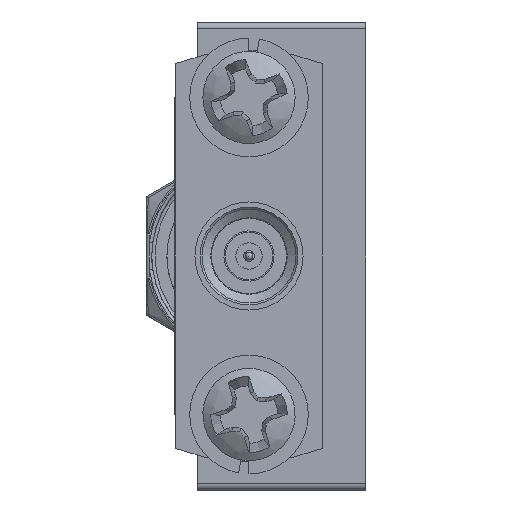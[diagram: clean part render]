
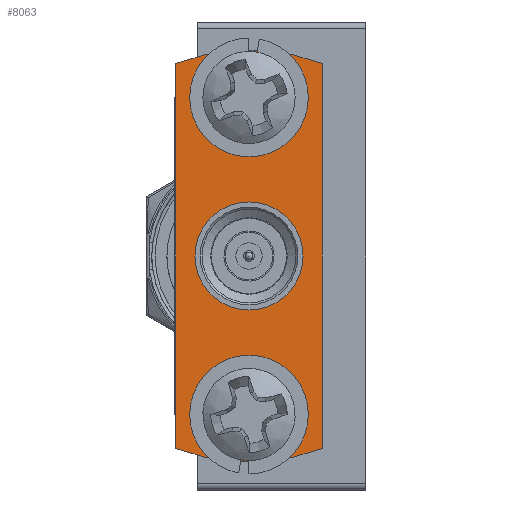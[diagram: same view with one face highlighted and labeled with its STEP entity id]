
A CAD part, left-side view. The second image highlights one B-rep face of the part: STEP entity #8063.
In plain terms, the highlighted planar face has unit normal (-1, 0, 0).
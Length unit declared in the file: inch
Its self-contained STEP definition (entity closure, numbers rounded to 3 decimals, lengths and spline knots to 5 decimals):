
#116 = CARTESIAN_POINT ( 'NONE',  ( 39.06986, 39.76792, 39.3915 ) ) ;
#1358 = PLANE ( 'NONE',  #27899 ) ;
#3497 = VERTEX_POINT ( 'NONE', #45823 ) ;
#4096 = LINE ( 'NONE', #27306, #12494 ) ;
#4583 = DIRECTION ( 'NONE',  ( 0., 0., -1. ) ) ;
#5353 = CARTESIAN_POINT ( 'NONE',  ( 39.06986, 39.60492, 39.92393 ) ) ;
#5778 = EDGE_CURVE ( 'NONE', #15467, #15467, #20808, .T. ) ;
#6345 = AXIS2_PLACEMENT_3D ( 'NONE', #7960, #19027, #30180 ) ;
#7727 = DIRECTION ( 'NONE',  ( -1., 0., 0. ) ) ;
#7960 = CARTESIAN_POINT ( 'NONE',  ( 39.06986, 39.71642, 39.3915 ) ) ;
#7997 = CIRCLE ( 'NONE', #43291, 0.3125 ) ;
#8063 = ADVANCED_FACE ( 'NONE', ( #20306, #31442, #35349, #12659 ), #1358, .T. ) ;
#9491 = CIRCLE ( 'NONE', #6345, 0.0515 ) ;
#10191 = ORIENTED_EDGE ( 'NONE', *, *, #5778, .F. ) ;
#10898 = VERTEX_POINT ( 'NONE', #24252 ) ;
#12461 = EDGE_LOOP ( 'NONE', ( #10191 ) ) ;
#12494 = VECTOR ( 'NONE', #4583, 39.37008 ) ;
#12659 = FACE_OUTER_BOUND ( 'NONE', #14583, .T. ) ;
#12837 = DIRECTION ( 'NONE',  ( -1., 0., 0. ) ) ;
#12864 = VERTEX_POINT ( 'NONE', #22224 ) ;
#14583 = EDGE_LOOP ( 'NONE', ( #15412, #22566, #18017, #16345 ) ) ;
#15412 = ORIENTED_EDGE ( 'NONE', *, *, #28938, .T. ) ;
#15467 = VERTEX_POINT ( 'NONE', #45991 ) ;
#16345 = ORIENTED_EDGE ( 'NONE', *, *, #31434, .T. ) ;
#16606 = CARTESIAN_POINT ( 'NONE',  ( 39.06986, 39.76792, 39.8725 ) ) ;
#17175 = EDGE_LOOP ( 'NONE', ( #42173 ) ) ;
#18017 = ORIENTED_EDGE ( 'NONE', *, *, #40606, .T. ) ;
#19018 = DIRECTION ( 'NONE',  ( 0., 1., 0. ) ) ;
#19027 = DIRECTION ( 'NONE',  ( -1., 0., 0. ) ) ;
#19321 = VERTEX_POINT ( 'NONE', #35424 ) ;
#20095 = VERTEX_POINT ( 'NONE', #16606 ) ;
#20306 = FACE_BOUND ( 'NONE', #12461, .T. ) ;
#20808 = CIRCLE ( 'NONE', #34959, 0.082 ) ;
#22224 = CARTESIAN_POINT ( 'NONE',  ( 39.06986, 39.82792, 39.34007 ) ) ;
#22566 = ORIENTED_EDGE ( 'NONE', *, *, #38086, .T. ) ;
#22766 = DIRECTION ( 'NONE',  ( 0., 1., 0. ) ) ;
#23975 = EDGE_LOOP ( 'NONE', ( #47764 ) ) ;
#24071 = DIRECTION ( 'NONE',  ( -1., 0., 0. ) ) ;
#24252 = CARTESIAN_POINT ( 'NONE',  ( 39.06986, 39.60492, 39.92393 ) ) ;
#24346 = VECTOR ( 'NONE', #38823, 39.37008 ) ;
#25764 = DIRECTION ( 'NONE',  ( 0., 1., 0. ) ) ;
#27048 = DIRECTION ( 'NONE',  ( 0., 1., 0. ) ) ;
#27237 = DIRECTION ( 'NONE',  ( -1., 0., 0. ) ) ;
#27306 = CARTESIAN_POINT ( 'NONE',  ( 39.06986, 39.82792, 39.92393 ) ) ;
#27762 = CARTESIAN_POINT ( 'NONE',  ( 39.06986, 39.71642, 39.632 ) ) ;
#27899 = AXIS2_PLACEMENT_3D ( 'NONE', #27762, #24071, #27048 ) ;
#28938 = EDGE_CURVE ( 'NONE', #10898, #3497, #42996, .T. ) ;
#30180 = DIRECTION ( 'NONE',  ( 0., 1., 0. ) ) ;
#30518 = AXIS2_PLACEMENT_3D ( 'NONE', #45588, #27237, #19018 ) ;
#31434 = EDGE_CURVE ( 'NONE', #19321, #10898, #31961, .T. ) ;
#31442 = FACE_BOUND ( 'NONE', #23975, .T. ) ;
#31961 = LINE ( 'NONE', #5353, #24346 ) ;
#33281 = AXIS2_PLACEMENT_3D ( 'NONE', #43658, #39964, #25764 ) ;
#34077 = EDGE_CURVE ( 'NONE', #20095, #20095, #37165, .T. ) ;
#34959 = AXIS2_PLACEMENT_3D ( 'NONE', #41471, #12837, #42383 ) ;
#35349 = FACE_BOUND ( 'NONE', #17175, .T. ) ;
#35424 = CARTESIAN_POINT ( 'NONE',  ( 39.06986, 39.60492, 39.34007 ) ) ;
#37165 = CIRCLE ( 'NONE', #33281, 0.0515 ) ;
#38014 = VERTEX_POINT ( 'NONE', #116 ) ;
#38086 = EDGE_CURVE ( 'NONE', #3497, #12864, #4096, .T. ) ;
#38823 = DIRECTION ( 'NONE',  ( 0., 0., 1. ) ) ;
#39964 = DIRECTION ( 'NONE',  ( -1., 0., 0. ) ) ;
#40606 = EDGE_CURVE ( 'NONE', #12864, #19321, #7997, .T. ) ;
#41471 = CARTESIAN_POINT ( 'NONE',  ( 39.06986, 39.71642, 39.632 ) ) ;
#42173 = ORIENTED_EDGE ( 'NONE', *, *, #48174, .F. ) ;
#42383 = DIRECTION ( 'NONE',  ( 0., 1., 0. ) ) ;
#42996 = CIRCLE ( 'NONE', #30518, 0.3125 ) ;
#43291 = AXIS2_PLACEMENT_3D ( 'NONE', #44854, #7727, #22766 ) ;
#43658 = CARTESIAN_POINT ( 'NONE',  ( 39.06986, 39.71642, 39.8725 ) ) ;
#44854 = CARTESIAN_POINT ( 'NONE',  ( 39.06986, 39.71642, 39.632 ) ) ;
#45588 = CARTESIAN_POINT ( 'NONE',  ( 39.06986, 39.71642, 39.632 ) ) ;
#45823 = CARTESIAN_POINT ( 'NONE',  ( 39.06986, 39.82792, 39.92393 ) ) ;
#45991 = CARTESIAN_POINT ( 'NONE',  ( 39.06986, 39.79842, 39.632 ) ) ;
#47764 = ORIENTED_EDGE ( 'NONE', *, *, #34077, .F. ) ;
#48174 = EDGE_CURVE ( 'NONE', #38014, #38014, #9491, .T. ) ;
